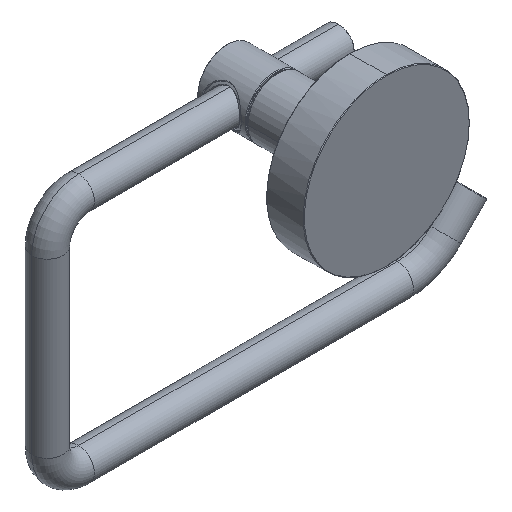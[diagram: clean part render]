
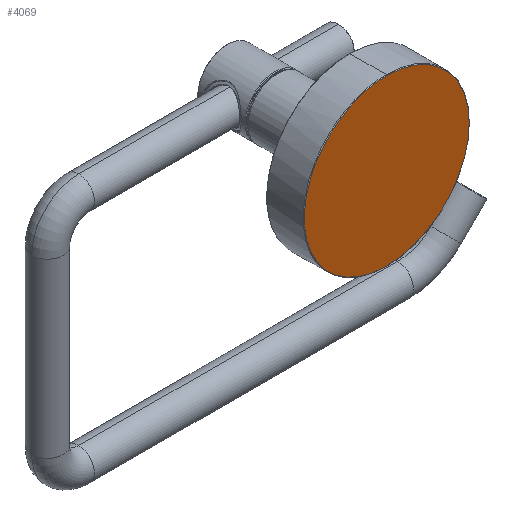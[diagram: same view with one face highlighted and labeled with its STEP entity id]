
A CAD part, isometric view. The second image highlights one B-rep face of the part: STEP entity #4069.
In plain terms, the highlighted planar face has unit normal (0, -1, 0).
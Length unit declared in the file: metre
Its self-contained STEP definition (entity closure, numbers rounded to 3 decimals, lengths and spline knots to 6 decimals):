
#537=EDGE_CURVE('',#538,#540,#542,.F.);
#538=VERTEX_POINT('',#539);
#539=CARTESIAN_POINT('',(0.0,0.0,-0.0263));
#540=VERTEX_POINT('',#541);
#541=CARTESIAN_POINT('',(0.0,0.0,0.0263));
#542=CIRCLE('',#543,0.0263);
#543=AXIS2_PLACEMENT_3D('',#544,#545,#546);
#544=CARTESIAN_POINT('',(0.0,0.0,0.0));
#545=DIRECTION('',(0.0,1.0,0.0));
#546=DIRECTION('',(0.0,0.0,1.0));
#4069=ADVANCED_FACE('',(#4075),#4070,.F.);
#4070=PLANE('',#4071);
#4071=AXIS2_PLACEMENT_3D('',#4072,#4073,#4074);
#4072=CARTESIAN_POINT('',(0.0,0.0,0.0265));
#4073=DIRECTION('',(0.0,1.0,0.0));
#4074=DIRECTION('',(0.0,0.0,1.0));
#4075=FACE_OUTER_BOUND('',#4076,.T.);
#4076=EDGE_LOOP('',(#4077,#4085));
#4077=ORIENTED_EDGE('',*,*,#4079,.T.);
#4078=CARTESIAN_POINT('',(0.0,0.0,-0.0263));
#4079=EDGE_CURVE('',#540,#538,#4080,.F.);
#4080=(B_SPLINE_CURVE(3,(#4078,#4081,#4082,#4083),.UNSPECIFIED.,.F.,.U.)B_SPLINE_CURVE_WITH_KNOTS(
  (4,4),(0.0,1.0),.UNSPECIFIED.)BOUNDED_CURVE()CURVE()GEOMETRIC_REPRESENTATION_ITEM(
  )RATIONAL_B_SPLINE_CURVE((1.0,0.333,0.333,1.0)
  )REPRESENTATION_ITEM(''));
#4081=CARTESIAN_POINT('',(-0.0526,0.0,-0.0263));
#4082=CARTESIAN_POINT('',(-0.0526,0.0,0.0263));
#4083=CARTESIAN_POINT('',(0.0,0.0,0.0263));
#4085=ORIENTED_EDGE('',*,*,#537,.T.);
